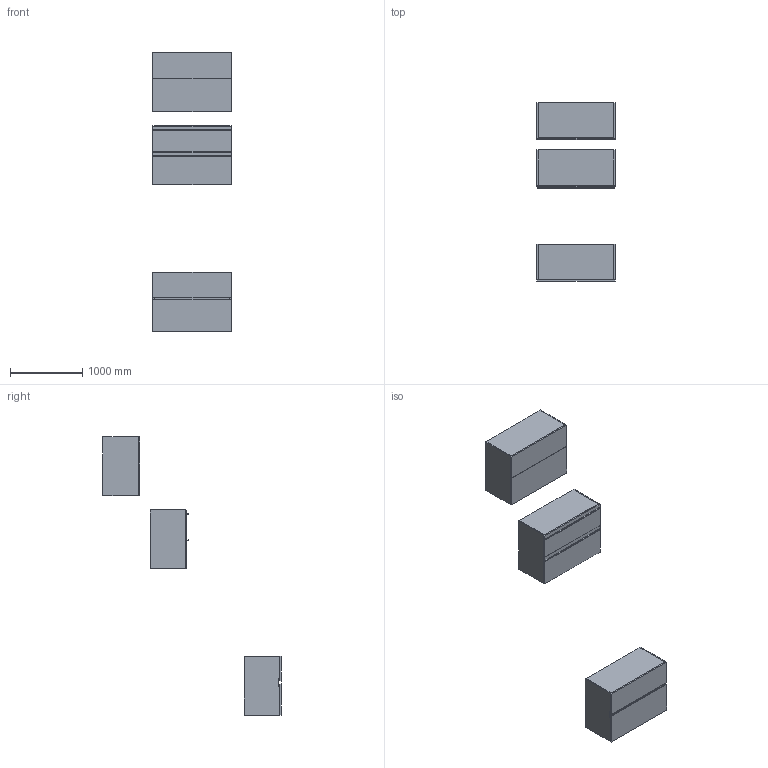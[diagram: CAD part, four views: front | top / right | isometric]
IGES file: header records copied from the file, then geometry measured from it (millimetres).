
Start section: Data from Parasolid IGES Translator 19.0.9, Copyright(c) 2006 Siemens PL M Software. All Rights Reserved.
Global section: file name: noorth-SI-H 81,2 D 51 W 108_9732.igs; native system: By Siemens PLM Incorporated; preprocessor: XPlus GENERIC/IGES 19.0.9; author: Noname; organization: Noname; date: 20200601.142403; units: metre
Bounding box: 1080 x 2458 x 3842 mm (x, y, z)
Volume: 143566174.7 mm3; surface area: 22227206.2 mm2
Topology: 24 solids, 24 shells, 248 faces, 544 edges, 324 vertices
Faces by surface type: plane 164, extrusion 36, bspline 32, cylinder 16
